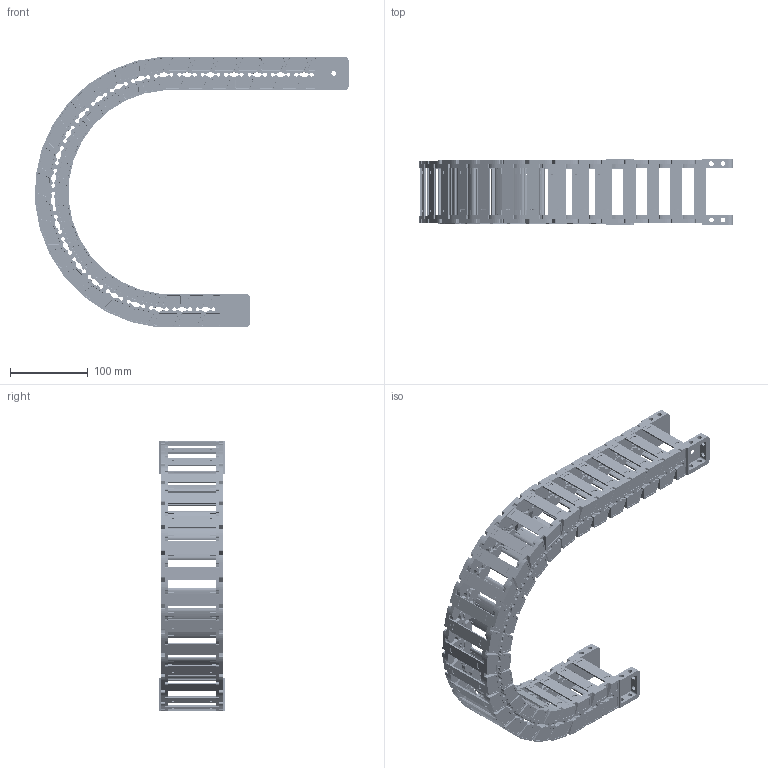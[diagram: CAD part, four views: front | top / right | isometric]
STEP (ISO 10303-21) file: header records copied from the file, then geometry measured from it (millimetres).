
FILE_DESCRIPTION((''),'2;1');
FILE_NAME('JY-35X60-R150_ASM','2025-01-06T09:01:47',('admin'),(''),'CREO PARAMETRIC BY PTC INC, 2021023','CREO PARAMETRIC BY PTC INC, 2021023','');
FILE_SCHEMA(('CONFIG_CONTROL_DESIGN'));
Length unit declared in the file: millimetre
Products named in the file (11): 35XL-L; YP; 35XL-R; ASM0001_ASM; 35-LTT-A-L; 35-LTT-A-R; 35XL-LTT-A_ASM; 35-LTT-B-L; 35-LTT-B-R; 35XL-LTT-B_ASM; JY-35X60-R150_ASM
Assembly tree (37 placements, depth 3):
  JY-35X60-R150_ASM
    ASM0001_ASM  x23
      35XL-L
      YP
      35XL-R
    35XL-LTT-A_ASM
      35-LTT-A-L
      YP  x2
      35-LTT-A-R
    35XL-LTT-B_ASM
      35-LTT-B-L
      YP  x2
      35-LTT-B-R
Bounding box: 402.36 x 84.5 x 347.06 mm (x, y, z)
Volume: 687504.8 mm3; surface area: 406993.7 mm2
Topology: 100 solids, 100 shells, 8160 faces, 24472 edges, 16520 vertices
Faces by surface type: plane 4618, cylinder 2678, cone 528, extrusion 192, bspline 144
Entity records: 27906 total; most frequent: CARTESIAN_POINT 6170, ORIENTED_EDGE 4640, DIRECTION 4369, EDGE_CURVE 2320, VERTEX_POINT 1568, AXIS2_PLACEMENT_3D 1476, VECTOR 1417, LINE 1401
